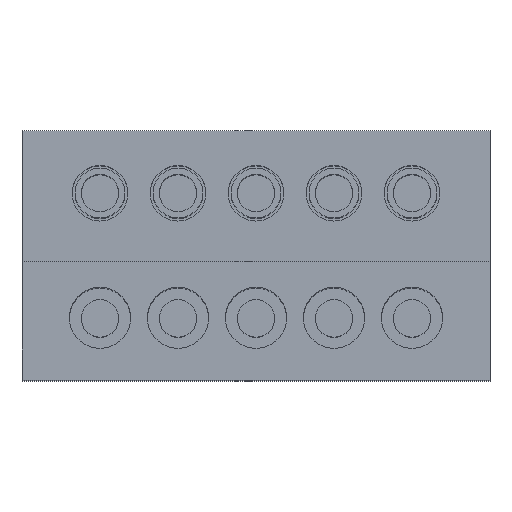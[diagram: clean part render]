
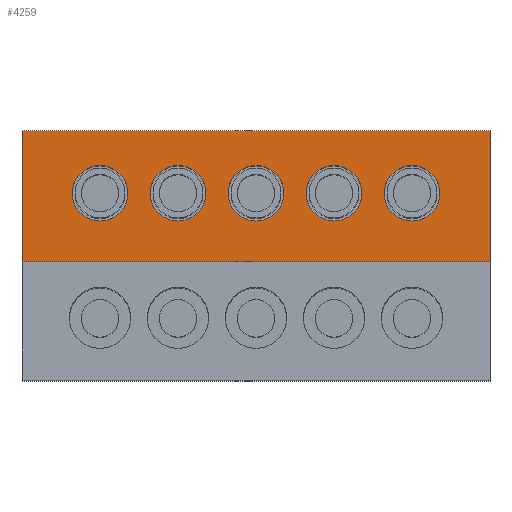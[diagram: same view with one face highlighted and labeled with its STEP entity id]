
A CAD part, top view. The second image highlights one B-rep face of the part: STEP entity #4259.
In plain terms, the highlighted planar face has unit normal (0, 0, 1).
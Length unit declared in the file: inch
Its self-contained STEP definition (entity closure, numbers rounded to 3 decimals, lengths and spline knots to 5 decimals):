
#102 = ORIENTED_EDGE ( 'NONE', *, *, #4552, .F. ) ;
#132 = EDGE_CURVE ( 'NONE', #2688, #3167, #862, .T. ) ;
#163 = DIRECTION ( 'NONE',  ( 0., 0., 1. ) ) ;
#193 = VECTOR ( 'NONE', #3610, 39.37008 ) ;
#353 = VERTEX_POINT ( 'NONE', #4470 ) ;
#365 = ORIENTED_EDGE ( 'NONE', *, *, #3156, .F. ) ;
#369 = LINE ( 'NONE', #3468, #193 ) ;
#393 = CIRCLE ( 'NONE', #477, 0.0089 ) ;
#394 = CIRCLE ( 'NONE', #2259, 0.0089 ) ;
#438 = VECTOR ( 'NONE', #4111, 39.37008 ) ;
#441 = EDGE_LOOP ( 'NONE', ( #1084, #102 ) ) ;
#473 = EDGE_CURVE ( 'NONE', #3845, #1887, #3694, .T. ) ;
#477 = AXIS2_PLACEMENT_3D ( 'NONE', #4135, #4095, #4049 ) ;
#493 = EDGE_LOOP ( 'NONE', ( #1818, #4173 ) ) ;
#503 = EDGE_CURVE ( 'NONE', #4804, #4151, #3455, .T. ) ;
#603 = VECTOR ( 'NONE', #3278, 39.37008 ) ;
#623 = DIRECTION ( 'NONE',  ( 0., 1., 0. ) ) ;
#668 = CARTESIAN_POINT ( 'NONE',  ( 0., 0.06, 0.1 ) ) ;
#676 = LINE ( 'NONE', #4766, #438 ) ;
#731 = AXIS2_PLACEMENT_3D ( 'NONE', #1517, #1497, #1961 ) ;
#746 = CARTESIAN_POINT ( 'NONE',  ( -0.075, 0.08, 0.1 ) ) ;
#789 = ORIENTED_EDGE ( 'NONE', *, *, #4544, .F. ) ;
#852 = ORIENTED_EDGE ( 'NONE', *, *, #4550, .F. ) ;
#862 = LINE ( 'NONE', #3304, #603 ) ;
#924 = CARTESIAN_POINT ( 'NONE',  ( -0.0339, 0.06, 0.1 ) ) ;
#974 = ORIENTED_EDGE ( 'NONE', *, *, #503, .F. ) ;
#975 = CARTESIAN_POINT ( 'NONE',  ( 0.0161, 0.06, 0.1 ) ) ;
#988 = CARTESIAN_POINT ( 'NONE',  ( -0.075, 0.038, 0.1 ) ) ;
#1042 = ORIENTED_EDGE ( 'NONE', *, *, #2448, .F. ) ;
#1046 = FACE_OUTER_BOUND ( 'NONE', #4206, .T. ) ;
#1084 = ORIENTED_EDGE ( 'NONE', *, *, #2024, .F. ) ;
#1179 = DIRECTION ( 'NONE',  ( 0., 1., 0. ) ) ;
#1231 = CIRCLE ( 'NONE', #2020, 0.0089 ) ;
#1275 = DIRECTION ( 'NONE',  ( 0., 0., 1. ) ) ;
#1285 = FACE_BOUND ( 'NONE', #2873, .T. ) ;
#1324 = VERTEX_POINT ( 'NONE', #975 ) ;
#1340 = AXIS2_PLACEMENT_3D ( 'NONE', #2838, #2540, #2579 ) ;
#1382 = ORIENTED_EDGE ( 'NONE', *, *, #2643, .F. ) ;
#1417 = FACE_BOUND ( 'NONE', #493, .T. ) ;
#1434 = CIRCLE ( 'NONE', #2174, 0.0089 ) ;
#1497 = DIRECTION ( 'NONE',  ( 0., 0., 1. ) ) ;
#1517 = CARTESIAN_POINT ( 'NONE',  ( 0.05, 0.06, 0.1 ) ) ;
#1674 = CARTESIAN_POINT ( 'NONE',  ( 0.0089, 0.06, 0.1 ) ) ;
#1760 = ORIENTED_EDGE ( 'NONE', *, *, #4634, .F. ) ;
#1818 = ORIENTED_EDGE ( 'NONE', *, *, #2746, .F. ) ;
#1827 = CARTESIAN_POINT ( 'NONE',  ( -0.0411, 0.06, 0.1 ) ) ;
#1887 = VERTEX_POINT ( 'NONE', #2394 ) ;
#1953 = FACE_BOUND ( 'NONE', #3565, .T. ) ;
#1961 = DIRECTION ( 'NONE',  ( 0., 1., 0. ) ) ;
#2020 = AXIS2_PLACEMENT_3D ( 'NONE', #3727, #3698, #3398 ) ;
#2024 = EDGE_CURVE ( 'NONE', #2502, #2809, #1434, .T. ) ;
#2047 = CIRCLE ( 'NONE', #3816, 0.0089 ) ;
#2062 = CARTESIAN_POINT ( 'NONE',  ( -0.0589, 0.06, 0.1 ) ) ;
#2174 = AXIS2_PLACEMENT_3D ( 'NONE', #668, #1275, #1179 ) ;
#2259 = AXIS2_PLACEMENT_3D ( 'NONE', #3331, #3034, #3007 ) ;
#2267 = AXIS2_PLACEMENT_3D ( 'NONE', #3537, #3498, #3486 ) ;
#2321 = FACE_BOUND ( 'NONE', #441, .T. ) ;
#2375 = DIRECTION ( 'NONE',  ( 0., 1., 0. ) ) ;
#2394 = CARTESIAN_POINT ( 'NONE',  ( -0.075, 0.038, 0.1 ) ) ;
#2402 = DIRECTION ( 'NONE',  ( 0., 0., 1. ) ) ;
#2419 = CARTESIAN_POINT ( 'NONE',  ( 0.025, 0.06, 0.1 ) ) ;
#2448 = EDGE_CURVE ( 'NONE', #2726, #3838, #4796, .T. ) ;
#2489 = CIRCLE ( 'NONE', #3212, 0.0089 ) ;
#2502 = VERTEX_POINT ( 'NONE', #4758 ) ;
#2518 = EDGE_LOOP ( 'NONE', ( #1760, #1382 ) ) ;
#2540 = DIRECTION ( 'NONE',  ( 0., 0., -1. ) ) ;
#2549 = FACE_BOUND ( 'NONE', #2518, .T. ) ;
#2579 = DIRECTION ( 'NONE',  ( 0., 1., 0. ) ) ;
#2643 = EDGE_CURVE ( 'NONE', #3268, #3620, #3338, .T. ) ;
#2683 = CARTESIAN_POINT ( 'NONE',  ( 0.0411, 0.06, 0.1 ) ) ;
#2688 = VERTEX_POINT ( 'NONE', #3374 ) ;
#2726 = VERTEX_POINT ( 'NONE', #2744 ) ;
#2744 = CARTESIAN_POINT ( 'NONE',  ( 0.0589, 0.06, 0.1 ) ) ;
#2746 = EDGE_CURVE ( 'NONE', #1324, #353, #2047, .T. ) ;
#2809 = VERTEX_POINT ( 'NONE', #1674 ) ;
#2838 = CARTESIAN_POINT ( 'NONE',  ( 0.075, 0.038, 0.1 ) ) ;
#2873 = EDGE_LOOP ( 'NONE', ( #789, #1042 ) ) ;
#2899 = PLANE ( 'NONE',  #1340 ) ;
#3007 = DIRECTION ( 'NONE',  ( 0., 1., 0. ) ) ;
#3034 = DIRECTION ( 'NONE',  ( 0., 0., 1. ) ) ;
#3093 = EDGE_CURVE ( 'NONE', #2688, #3845, #676, .T. ) ;
#3108 = ORIENTED_EDGE ( 'NONE', *, *, #473, .T. ) ;
#3156 = EDGE_CURVE ( 'NONE', #3167, #1887, #369, .T. ) ;
#3167 = VERTEX_POINT ( 'NONE', #3483 ) ;
#3178 = CARTESIAN_POINT ( 'NONE',  ( -0.0161, 0.06, 0.1 ) ) ;
#3212 = AXIS2_PLACEMENT_3D ( 'NONE', #4484, #4592, #4521 ) ;
#3268 = VERTEX_POINT ( 'NONE', #1827 ) ;
#3278 = DIRECTION ( 'NONE',  ( 0., -1., 0. ) ) ;
#3304 = CARTESIAN_POINT ( 'NONE',  ( 0.075, 0.038, 0.1 ) ) ;
#3306 = CIRCLE ( 'NONE', #2267, 0.0089 ) ;
#3331 = CARTESIAN_POINT ( 'NONE',  ( 0., 0.06, 0.1 ) ) ;
#3338 = CIRCLE ( 'NONE', #4168, 0.0089 ) ;
#3374 = CARTESIAN_POINT ( 'NONE',  ( 0.075, 0.08, 0.1 ) ) ;
#3398 = DIRECTION ( 'NONE',  ( 0., 1., 0. ) ) ;
#3455 = CIRCLE ( 'NONE', #4401, 0.0089 ) ;
#3468 = CARTESIAN_POINT ( 'NONE',  ( 0.075, 0.038, 0.1 ) ) ;
#3478 = EDGE_CURVE ( 'NONE', #353, #1324, #3306, .T. ) ;
#3483 = CARTESIAN_POINT ( 'NONE',  ( 0.075, 0.038, 0.1 ) ) ;
#3486 = DIRECTION ( 'NONE',  ( 0., 1., 0. ) ) ;
#3498 = DIRECTION ( 'NONE',  ( 0., 0., 1. ) ) ;
#3537 = CARTESIAN_POINT ( 'NONE',  ( 0.025, 0.06, 0.1 ) ) ;
#3565 = EDGE_LOOP ( 'NONE', ( #974, #852 ) ) ;
#3566 = VECTOR ( 'NONE', #4039, 39.37008 ) ;
#3610 = DIRECTION ( 'NONE',  ( -1., 0., 0. ) ) ;
#3620 = VERTEX_POINT ( 'NONE', #2062 ) ;
#3664 = ORIENTED_EDGE ( 'NONE', *, *, #3093, .T. ) ;
#3694 = LINE ( 'NONE', #988, #3566 ) ;
#3698 = DIRECTION ( 'NONE',  ( 0., 0., 1. ) ) ;
#3727 = CARTESIAN_POINT ( 'NONE',  ( -0.025, 0.06, 0.1 ) ) ;
#3816 = AXIS2_PLACEMENT_3D ( 'NONE', #2419, #2402, #2375 ) ;
#3838 = VERTEX_POINT ( 'NONE', #2683 ) ;
#3845 = VERTEX_POINT ( 'NONE', #746 ) ;
#4039 = DIRECTION ( 'NONE',  ( 0., -1., 0. ) ) ;
#4049 = DIRECTION ( 'NONE',  ( 0., 1., 0. ) ) ;
#4074 = DIRECTION ( 'NONE',  ( 0., 1., 0. ) ) ;
#4089 = DIRECTION ( 'NONE',  ( 0., 0., 1. ) ) ;
#4095 = DIRECTION ( 'NONE',  ( 0., 0., 1. ) ) ;
#4110 = CARTESIAN_POINT ( 'NONE',  ( -0.05, 0.06, 0.1 ) ) ;
#4111 = DIRECTION ( 'NONE',  ( -1., 0., 0. ) ) ;
#4135 = CARTESIAN_POINT ( 'NONE',  ( 0.05, 0.06, 0.1 ) ) ;
#4151 = VERTEX_POINT ( 'NONE', #3178 ) ;
#4168 = AXIS2_PLACEMENT_3D ( 'NONE', #4110, #4089, #4074 ) ;
#4173 = ORIENTED_EDGE ( 'NONE', *, *, #3478, .F. ) ;
#4206 = EDGE_LOOP ( 'NONE', ( #3108, #365, #4649, #3664 ) ) ;
#4259 = ADVANCED_FACE ( 'NONE', ( #2549, #1953, #2321, #1417, #1285, #1046 ), #2899, .F. ) ;
#4401 = AXIS2_PLACEMENT_3D ( 'NONE', #4678, #163, #623 ) ;
#4470 = CARTESIAN_POINT ( 'NONE',  ( 0.0339, 0.06, 0.1 ) ) ;
#4484 = CARTESIAN_POINT ( 'NONE',  ( -0.05, 0.06, 0.1 ) ) ;
#4521 = DIRECTION ( 'NONE',  ( 0., 1., 0. ) ) ;
#4544 = EDGE_CURVE ( 'NONE', #3838, #2726, #393, .T. ) ;
#4550 = EDGE_CURVE ( 'NONE', #4151, #4804, #1231, .T. ) ;
#4552 = EDGE_CURVE ( 'NONE', #2809, #2502, #394, .T. ) ;
#4592 = DIRECTION ( 'NONE',  ( 0., 0., 1. ) ) ;
#4634 = EDGE_CURVE ( 'NONE', #3620, #3268, #2489, .T. ) ;
#4649 = ORIENTED_EDGE ( 'NONE', *, *, #132, .F. ) ;
#4678 = CARTESIAN_POINT ( 'NONE',  ( -0.025, 0.06, 0.1 ) ) ;
#4758 = CARTESIAN_POINT ( 'NONE',  ( -0.0089, 0.06, 0.1 ) ) ;
#4766 = CARTESIAN_POINT ( 'NONE',  ( 0.075, 0.08, 0.1 ) ) ;
#4796 = CIRCLE ( 'NONE', #731, 0.0089 ) ;
#4804 = VERTEX_POINT ( 'NONE', #924 ) ;
